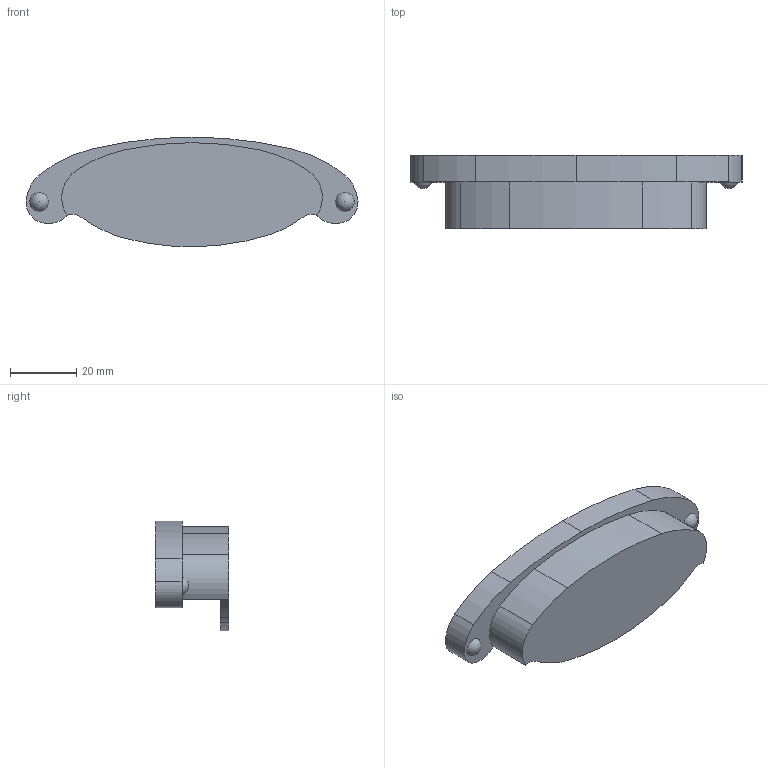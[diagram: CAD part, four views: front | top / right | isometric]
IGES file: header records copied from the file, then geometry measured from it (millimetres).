
Start section: Data from Parasolid IGES Translator 15.0.47, Copyright(c) 2006 Siemens P LM Software. All Rights Reserved.
Global section: file name: 9112655.igs; native system:  By UGS Corp.; preprocessor: XPlus GENERIC/IGES 3.0; author: Noname; organization: Noname; date: 20160630.162727; units: millimetre
Bounding box: 99.86 x 22 x 32.99 mm (x, y, z)
Surface area: 10420.8 mm2 (no closed solid volume)
Topology: 0 solids, 0 shells, 46 faces, 250 edges, 246 vertices
Faces by surface type: revolution 35, extrusion 11
